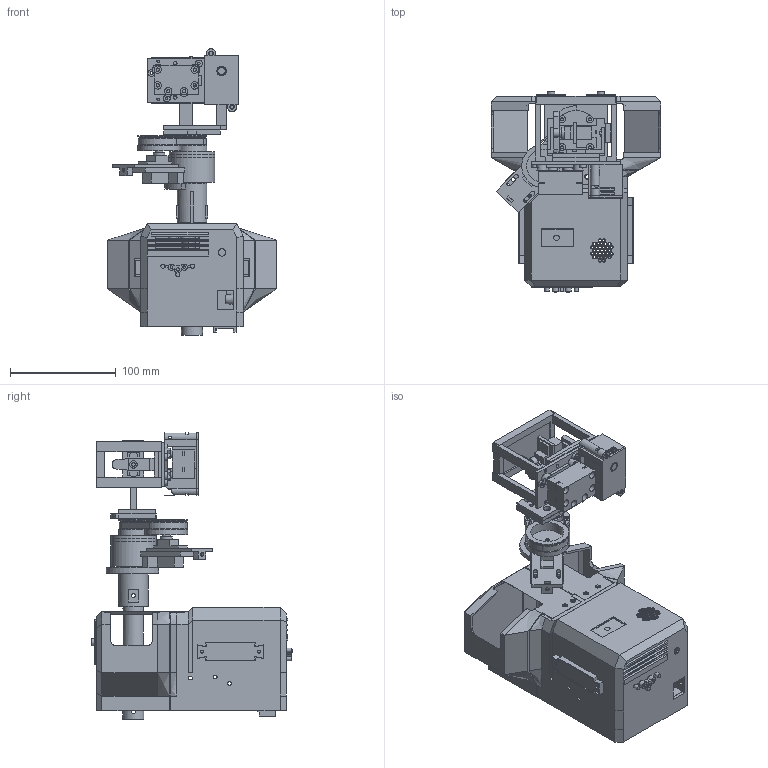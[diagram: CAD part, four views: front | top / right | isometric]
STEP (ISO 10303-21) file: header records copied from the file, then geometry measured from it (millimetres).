
FILE_DESCRIPTION(('FreeCAD Model'),'2;1');
FILE_NAME('Open CASCADE Shape Model','2026-10-30T13:01:47',('FreeCAD'),( 'FreeCAD'),'Open CASCADE STEP processor 7.8','FreeCAD','Unknown');
FILE_SCHEMA(('AUTOMOTIVE_DESIGN { 1 0 10303 214 1 1 1 1 }'));
Products named in the file (1): Open CASCADE STEP translator 7.8 1
Bounding box: 161 x 190.6 x 271.48 mm (x, y, z)
Volume: 422746.7 mm3; surface area: 316600.8 mm2
Topology: 137 solids, 157 shells, 4918 faces, 12625 edges, 7849 vertices
Faces by surface type: plane 3169, cylinder 1221, bspline 452, cone 75, sphere 1
Full cylindrical faces by diameter (mm): 1.6 x2, 2.35 x22, 2.4 x33, 2.6 x18, 2.8 x7, 3 x1, 3.1 x6, 3.4 x2, 3.6 x51, 4 x2, 4.5 x1, 4.6 x5, 4.8 x2, 5 x2, 5.2 x1, 5.4 x2, 5.5 x1, 6.5 x4, 6.8 x2, 7 x22, 7.1 x4, 7.65 x2, 8 x1, 9 x5, 10 x4, 11 x2, 12 x2, 13 x2, 19.25 x2, 20 x3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
Entity records: 157485 total; most frequent: CARTESIAN_POINT 39494, ORIENTED_EDGE 24826, DIRECTION 23554, EDGE_CURVE 12413, LINE 8904, VECTOR 8904, VERTEX_POINT 7849, AXIS2_PLACEMENT_3D 7325
